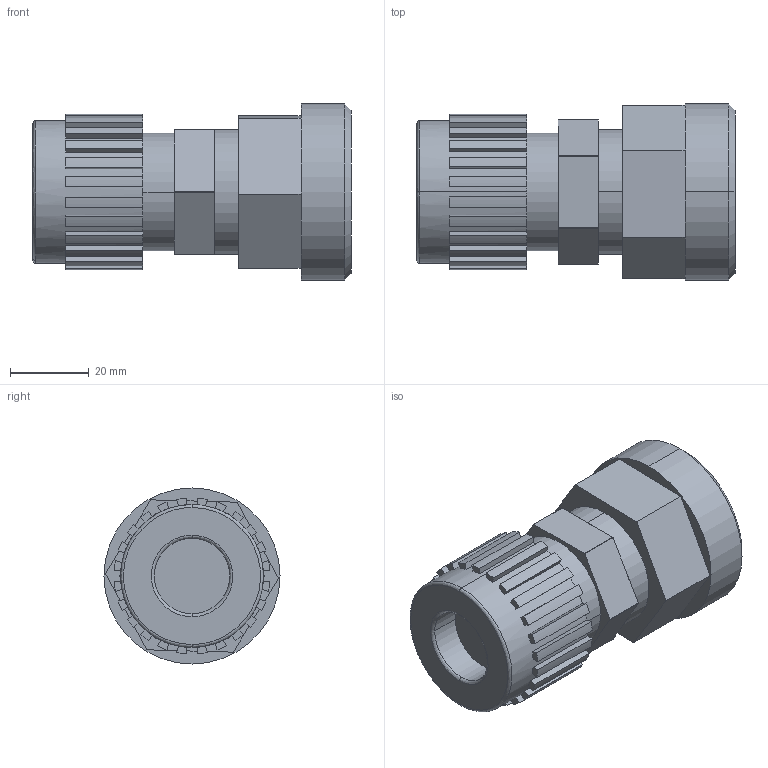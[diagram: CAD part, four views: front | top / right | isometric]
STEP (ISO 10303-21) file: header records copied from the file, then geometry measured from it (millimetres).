
FILE_DESCRIPTION (( 'STEP AP214' ), '1' );
FILE_NAME ('12-pillar-s-300-with-top-mount-adapter.STEP', '2012-11-27T19:16:15', ( '' ), ( '' ), 'SwSTEP 2.0', 'SolidWorks 2012', '' );
FILE_SCHEMA (( 'AUTOMOTIVE_DESIGN' ));
Length unit declared in the file: inch
Products named in the file (1): 12-pillar-s-300-with-top-mount-adapter
Bounding box: 80.78 x 44.7 x 44.7 mm (x, y, z)
Volume: 87478.9 mm3; surface area: 15766.9 mm2
Topology: 1 solids, 1 shells, 143 faces, 396 edges, 260 vertices
Faces by surface type: plane 97, cylinder 40, bspline 4, cone 2
Entity records: 5345 total; most frequent: CARTESIAN_POINT 1103, DIRECTION 808, ORIENTED_EDGE 792, EDGE_CURVE 396, AXIS2_PLACEMENT_3D 278, VERTEX_POINT 260, VECTOR 252, LINE 252
